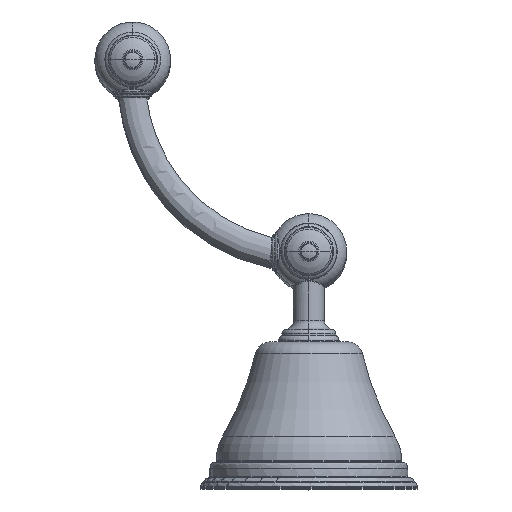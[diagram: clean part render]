
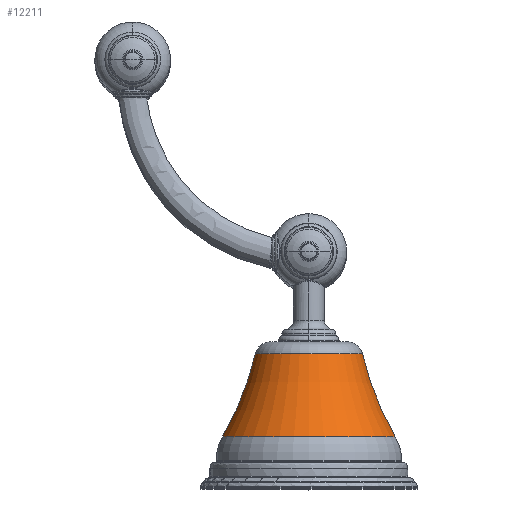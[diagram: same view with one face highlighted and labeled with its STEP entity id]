
A CAD part, top view. The second image highlights one B-rep face of the part: STEP entity #12211.
In plain terms, the highlighted toroidal (fillet/blend) face has major radius 114.652 mm and minor radius 100 mm.
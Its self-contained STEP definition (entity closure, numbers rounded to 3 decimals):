
#11794=CARTESIAN_POINT('',(0.,43.149,488.5));
#11795=DIRECTION('',(0.,1.,0.));
#11796=DIRECTION('',(-1.,0.,0.));
#11797=AXIS2_PLACEMENT_3D('',#11794,#11795,#11796);
#11799=CARTESIAN_POINT('',(0.,16.225,488.5));
#11800=DIRECTION('',(0.,1.,0.));
#11801=DIRECTION('',(-1.,0.,0.));
#11802=AXIS2_PLACEMENT_3D('',#11799,#11800,#11801);
#11819=CARTESIAN_POINT('',(-114.652,66.136,488.5));
#11820=DIRECTION('',(0.,0.,1.));
#11821=DIRECTION('',(0.867,-0.499,0.));
#11822=AXIS2_PLACEMENT_3D('',#11819,#11820,#11821);
#11829=CARTESIAN_POINT('',(114.652,66.136,488.5));
#11830=DIRECTION('',(0.,0.,-1.));
#11831=DIRECTION('',(-0.867,-0.499,0.));
#11832=AXIS2_PLACEMENT_3D('',#11829,#11830,#11831);
#12082=CARTESIAN_POINT('',(27.998,16.225,488.5));
#12083=CARTESIAN_POINT('',(-27.998,16.225,488.5));
#12084=VERTEX_POINT('',#12082);
#12085=VERTEX_POINT('',#12083);
#12094=CARTESIAN_POINT('',(17.33,43.149,488.5));
#12095=CARTESIAN_POINT('',(-17.33,43.149,488.5));
#12096=VERTEX_POINT('',#12094);
#12097=VERTEX_POINT('',#12095);
#12196=CARTESIAN_POINT('',(0.,66.136,488.5));
#12197=DIRECTION('',(0.,-1.,0.));
#12198=DIRECTION('',(-1.,0.,0.));
#12199=AXIS2_PLACEMENT_3D('',#12196,#12197,#12198);
#12200=TOROIDAL_SURFACE('',#12199,114.652,100.);
#12202=ORIENTED_EDGE('',*,*,#12201,.T.);
#12204=ORIENTED_EDGE('',*,*,#12203,.F.);
#12206=ORIENTED_EDGE('',*,*,#12205,.F.);
#12208=ORIENTED_EDGE('',*,*,#12207,.T.);
#12209=EDGE_LOOP('',(#12202,#12204,#12206,#12208));
#12210=FACE_OUTER_BOUND('',#12209,.F.);
#12211=ADVANCED_FACE('',(#12210),#12200,.F.);
#11798=CIRCLE('',#11797,17.33);
#11803=CIRCLE('',#11802,27.998);
#11823=CIRCLE('',#11822,100.);
#11833=CIRCLE('',#11832,100.);
#12201=EDGE_CURVE('',#12097,#12096,#11798,.T.);
#12203=EDGE_CURVE('',#12084,#12096,#11833,.T.);
#12205=EDGE_CURVE('',#12085,#12084,#11803,.T.);
#12207=EDGE_CURVE('',#12085,#12097,#11823,.T.);
